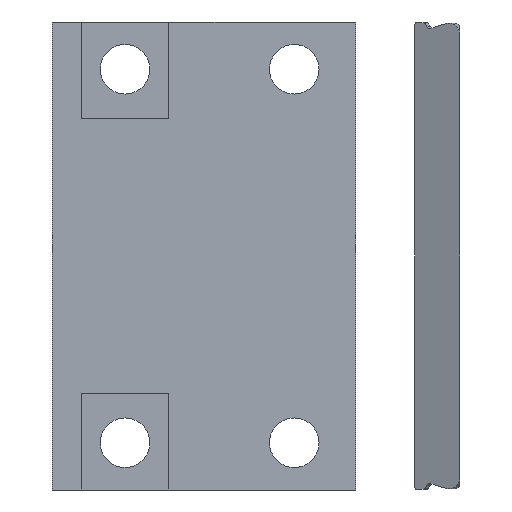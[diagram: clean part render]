
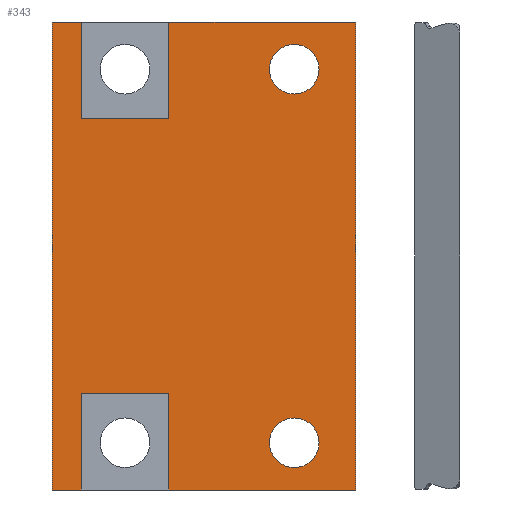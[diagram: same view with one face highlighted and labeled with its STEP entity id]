
A CAD part, front view. The second image highlights one B-rep face of the part: STEP entity #343.
In plain terms, the highlighted planar face has unit normal (0, -1, 0).
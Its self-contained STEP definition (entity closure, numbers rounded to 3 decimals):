
#284 = VERTEX_POINT ( 'NONE', #931 ) ;
#288 = EDGE_CURVE ( 'NONE', #284, #315, #985, .T. ) ;
#291 = VERTEX_POINT ( 'NONE', #971 ) ;
#292 = VERTEX_POINT ( 'NONE', #970 ) ;
#294 = EDGE_CURVE ( 'NONE', #291, #292, #969, .T. ) ;
#297 = VERTEX_POINT ( 'NONE', #961 ) ;
#300 = EDGE_CURVE ( 'NONE', #301, #297, #1022, .T. ) ;
#301 = VERTEX_POINT ( 'NONE', #1018 ) ;
#315 = VERTEX_POINT ( 'NONE', #997 ) ;
#316 = ORIENTED_EDGE ( 'NONE', *, *, #340, .T. ) ;
#317 = ORIENTED_EDGE ( 'NONE', *, *, #318, .T. ) ;
#318 = EDGE_CURVE ( 'NONE', #427, #471, #996, .T. ) ;
#319 = ORIENTED_EDGE ( 'NONE', *, *, #470, .T. ) ;
#320 = EDGE_CURVE ( 'NONE', #301, #284, #1054, .T. ) ;
#321 = ORIENTED_EDGE ( 'NONE', *, *, #398, .F. ) ;
#323 = VERTEX_POINT ( 'NONE', #1050 ) ;
#324 = ORIENTED_EDGE ( 'NONE', *, *, #320, .F. ) ;
#325 = EDGE_CURVE ( 'NONE', #383, #382, #1049, .T. ) ;
#326 = ORIENTED_EDGE ( 'NONE', *, *, #325, .T. ) ;
#330 = EDGE_LOOP ( 'NONE', ( #326, #396 ) ) ;
#333 = ORIENTED_EDGE ( 'NONE', *, *, #334, .T. ) ;
#334 = EDGE_CURVE ( 'NONE', #297, #438, #1036, .T. ) ;
#336 = ORIENTED_EDGE ( 'NONE', *, *, #300, .T. ) ;
#339 = EDGE_LOOP ( 'NONE', ( #317, #319 ) ) ;
#340 = EDGE_CURVE ( 'NONE', #323, #342, #1086, .T. ) ;
#342 = VERTEX_POINT ( 'NONE', #1082 ) ;
#343 = ADVANCED_FACE ( 'NONE', ( #1081, #1080, #1079 ), #1078, .F. ) ;
#346 = ORIENTED_EDGE ( 'NONE', *, *, #559, .T. ) ;
#382 = VERTEX_POINT ( 'NONE', #1138 ) ;
#383 = VERTEX_POINT ( 'NONE', #1137 ) ;
#384 = EDGE_CURVE ( 'NONE', #382, #383, #1136, .T. ) ;
#387 = ORIENTED_EDGE ( 'NONE', *, *, #437, .F. ) ;
#388 = ORIENTED_EDGE ( 'NONE', *, *, #389, .F. ) ;
#389 = EDGE_CURVE ( 'NONE', #291, #435, #1131, .T. ) ;
#390 = ORIENTED_EDGE ( 'NONE', *, *, #294, .T. ) ;
#396 = ORIENTED_EDGE ( 'NONE', *, *, #384, .T. ) ;
#397 = EDGE_LOOP ( 'NONE', ( #316, #321, #399, #324, #336, #333, #387, #388, #390, #346, #558, #491 ) ) ;
#398 = EDGE_CURVE ( 'NONE', #315, #342, #1122, .T. ) ;
#399 = ORIENTED_EDGE ( 'NONE', *, *, #288, .F. ) ;
#427 = VERTEX_POINT ( 'NONE', #1191 ) ;
#435 = VERTEX_POINT ( 'NONE', #1232 ) ;
#437 = EDGE_CURVE ( 'NONE', #435, #438, #1231, .T. ) ;
#438 = VERTEX_POINT ( 'NONE', #1227 ) ;
#470 = EDGE_CURVE ( 'NONE', #471, #427, #1291, .T. ) ;
#471 = VERTEX_POINT ( 'NONE', #1282 ) ;
#491 = ORIENTED_EDGE ( 'NONE', *, *, #492, .F. ) ;
#492 = EDGE_CURVE ( 'NONE', #323, #557, #1370, .T. ) ;
#557 = VERTEX_POINT ( 'NONE', #1443 ) ;
#558 = ORIENTED_EDGE ( 'NONE', *, *, #560, .F. ) ;
#559 = EDGE_CURVE ( 'NONE', #292, #561, #1442, .T. ) ;
#560 = EDGE_CURVE ( 'NONE', #557, #561, #1438, .T. ) ;
#561 = VERTEX_POINT ( 'NONE', #1434 ) ;
#931 = CARTESIAN_POINT ( 'NONE',  ( -15., 10., 80.2 ) ) ;
#961 = CARTESIAN_POINT ( 'NONE',  ( -25., 10., -80.2 ) ) ;
#966 = DIRECTION ( 'NONE',  ( 0., 0., -1. ) ) ;
#967 = VECTOR ( 'NONE', #966, 1000. ) ;
#968 = CARTESIAN_POINT ( 'NONE',  ( 15., 10., 80.2 ) ) ;
#969 = LINE ( 'NONE', #968, #967 ) ;
#970 = CARTESIAN_POINT ( 'NONE',  ( 15., 10., -80.2 ) ) ;
#971 = CARTESIAN_POINT ( 'NONE',  ( 15., 10., -47. ) ) ;
#982 = DIRECTION ( 'NONE',  ( 0., 0., -1. ) ) ;
#983 = VECTOR ( 'NONE', #982, 1000. ) ;
#984 = CARTESIAN_POINT ( 'NONE',  ( -15., 10., 80.2 ) ) ;
#985 = LINE ( 'NONE', #984, #983 ) ;
#993 = DIRECTION ( 'NONE',  ( 0., 1., 0. ) ) ;
#994 = CARTESIAN_POINT ( 'NONE',  ( 58., 10., 64. ) ) ;
#995 = AXIS2_PLACEMENT_3D ( 'NONE', #994, #993, #1055 ) ;
#996 = CIRCLE ( 'NONE', #995, 8.5 ) ;
#997 = CARTESIAN_POINT ( 'NONE',  ( -15., 10., 47. ) ) ;
#1018 = CARTESIAN_POINT ( 'NONE',  ( -25., 10., 80.2 ) ) ;
#1019 = DIRECTION ( 'NONE',  ( 0., 0., -1. ) ) ;
#1020 = VECTOR ( 'NONE', #1019, 1000. ) ;
#1021 = CARTESIAN_POINT ( 'NONE',  ( -25., 10., 80.2 ) ) ;
#1022 = LINE ( 'NONE', #1021, #1020 ) ;
#1033 = DIRECTION ( 'NONE',  ( 1., 0., 0. ) ) ;
#1034 = VECTOR ( 'NONE', #1033, 1000. ) ;
#1035 = CARTESIAN_POINT ( 'NONE',  ( -25., 10., -80.2 ) ) ;
#1036 = LINE ( 'NONE', #1035, #1034 ) ;
#1045 = DIRECTION ( 'NONE',  ( 0., 0., 1. ) ) ;
#1046 = DIRECTION ( 'NONE',  ( 0., 1., 0. ) ) ;
#1047 = CARTESIAN_POINT ( 'NONE',  ( 58., 10., -64. ) ) ;
#1048 = AXIS2_PLACEMENT_3D ( 'NONE', #1047, #1046, #1045 ) ;
#1049 = CIRCLE ( 'NONE', #1048, 8.5 ) ;
#1050 = CARTESIAN_POINT ( 'NONE',  ( 15., 10., 80.2 ) ) ;
#1051 = DIRECTION ( 'NONE',  ( 1., 0., 0. ) ) ;
#1052 = VECTOR ( 'NONE', #1051, 1000. ) ;
#1053 = CARTESIAN_POINT ( 'NONE',  ( -25., 10., 80.2 ) ) ;
#1054 = LINE ( 'NONE', #1053, #1052 ) ;
#1055 = DIRECTION ( 'NONE',  ( 0., 0., 1. ) ) ;
#1074 = DIRECTION ( 'NONE',  ( 0., 0., 1. ) ) ;
#1075 = DIRECTION ( 'NONE',  ( 0., 1., 0. ) ) ;
#1076 = AXIS2_PLACEMENT_3D ( 'NONE', #1077, #1075, #1074 ) ;
#1077 = CARTESIAN_POINT ( 'NONE',  ( 15., 10., 80.2 ) ) ;
#1078 = PLANE ( 'NONE',  #1076 ) ;
#1079 = FACE_OUTER_BOUND ( 'NONE', #397, .T. ) ;
#1080 = FACE_BOUND ( 'NONE', #330, .T. ) ;
#1081 = FACE_BOUND ( 'NONE', #339, .T. ) ;
#1082 = CARTESIAN_POINT ( 'NONE',  ( 15., 10., 47. ) ) ;
#1083 = DIRECTION ( 'NONE',  ( 0., 0., -1. ) ) ;
#1084 = VECTOR ( 'NONE', #1083, 1000. ) ;
#1085 = CARTESIAN_POINT ( 'NONE',  ( 15., 10., 80.2 ) ) ;
#1086 = LINE ( 'NONE', #1085, #1084 ) ;
#1120 = VECTOR ( 'NONE', #1180, 1000. ) ;
#1121 = CARTESIAN_POINT ( 'NONE',  ( -25., 10., 47. ) ) ;
#1122 = LINE ( 'NONE', #1121, #1120 ) ;
#1128 = DIRECTION ( 'NONE',  ( -1., 0., 0. ) ) ;
#1129 = VECTOR ( 'NONE', #1128, 1000. ) ;
#1130 = CARTESIAN_POINT ( 'NONE',  ( -25., 10., -47. ) ) ;
#1131 = LINE ( 'NONE', #1130, #1129 ) ;
#1132 = DIRECTION ( 'NONE',  ( 0., 0., 1. ) ) ;
#1133 = DIRECTION ( 'NONE',  ( 0., 1., 0. ) ) ;
#1134 = CARTESIAN_POINT ( 'NONE',  ( 58., 10., -64. ) ) ;
#1135 = AXIS2_PLACEMENT_3D ( 'NONE', #1134, #1133, #1132 ) ;
#1136 = CIRCLE ( 'NONE', #1135, 8.5 ) ;
#1137 = CARTESIAN_POINT ( 'NONE',  ( 58., 10., -55.5 ) ) ;
#1138 = CARTESIAN_POINT ( 'NONE',  ( 58., 10., -72.5 ) ) ;
#1180 = DIRECTION ( 'NONE',  ( 1., 0., 0. ) ) ;
#1191 = CARTESIAN_POINT ( 'NONE',  ( 58., 10., 72.5 ) ) ;
#1227 = CARTESIAN_POINT ( 'NONE',  ( -15., 10., -80.2 ) ) ;
#1228 = DIRECTION ( 'NONE',  ( 0., 0., -1. ) ) ;
#1229 = VECTOR ( 'NONE', #1228, 1000. ) ;
#1230 = CARTESIAN_POINT ( 'NONE',  ( -15., 10., 80.2 ) ) ;
#1231 = LINE ( 'NONE', #1230, #1229 ) ;
#1232 = CARTESIAN_POINT ( 'NONE',  ( -15., 10., -47. ) ) ;
#1282 = CARTESIAN_POINT ( 'NONE',  ( 58., 10., 55.5 ) ) ;
#1283 = DIRECTION ( 'NONE',  ( 0., 0., 1. ) ) ;
#1284 = DIRECTION ( 'NONE',  ( 0., 1., 0. ) ) ;
#1285 = CARTESIAN_POINT ( 'NONE',  ( 58., 10., 64. ) ) ;
#1286 = AXIS2_PLACEMENT_3D ( 'NONE', #1285, #1284, #1283 ) ;
#1291 = CIRCLE ( 'NONE', #1286, 8.5 ) ;
#1367 = DIRECTION ( 'NONE',  ( 1., 0., 0. ) ) ;
#1368 = VECTOR ( 'NONE', #1367, 1000. ) ;
#1369 = CARTESIAN_POINT ( 'NONE',  ( 15., 10., 80.2 ) ) ;
#1370 = LINE ( 'NONE', #1369, #1368 ) ;
#1434 = CARTESIAN_POINT ( 'NONE',  ( 79., 10., -80.2 ) ) ;
#1435 = DIRECTION ( 'NONE',  ( 0., 0., -1. ) ) ;
#1436 = VECTOR ( 'NONE', #1435, 1000. ) ;
#1437 = CARTESIAN_POINT ( 'NONE',  ( 79., 10., 80.2 ) ) ;
#1438 = LINE ( 'NONE', #1437, #1436 ) ;
#1439 = DIRECTION ( 'NONE',  ( 1., 0., 0. ) ) ;
#1440 = VECTOR ( 'NONE', #1439, 1000. ) ;
#1441 = CARTESIAN_POINT ( 'NONE',  ( 15., 10., -80.2 ) ) ;
#1442 = LINE ( 'NONE', #1441, #1440 ) ;
#1443 = CARTESIAN_POINT ( 'NONE',  ( 79., 10., 80.2 ) ) ;
